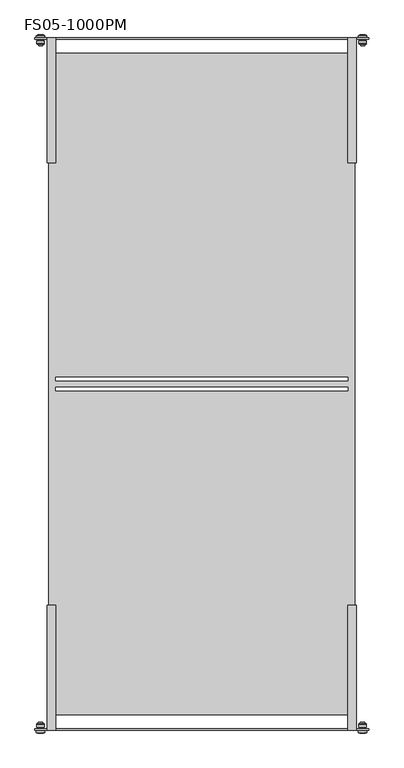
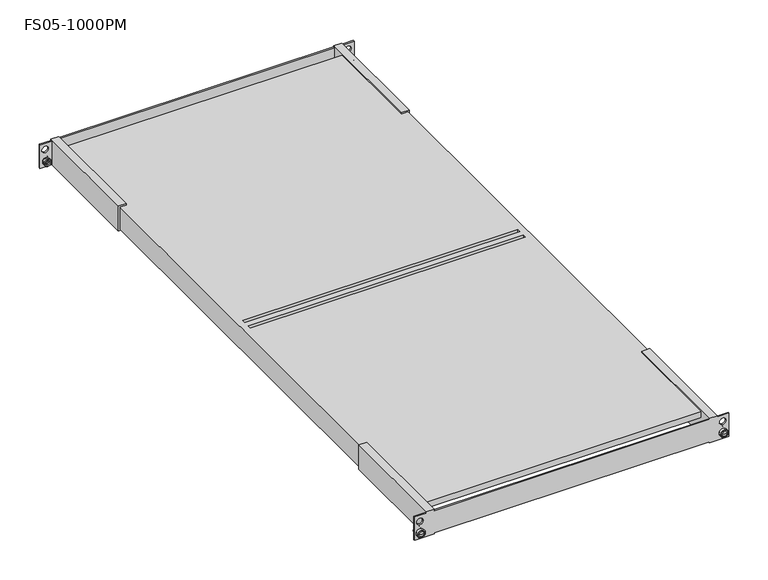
"""IFC4 building model written with IfcOpenShell, lengths in millimetres: proxy geometry, Полки стационарные усиленные : FS05-1000PM."""

from ifc_helpers import new_model, si_unit, point, frame, origin, place, context, project, spatial, polyline, circle_curve, ellipse_curve, trimmed, source, transform, mapped, element, save
from ifc_brep_helpers import plane_surface, cylinder_surface, revolved_surface, advanced_brep


def fs05_1000pm_f160d74f(model_context):
    return source(origin(), model_context, "Body", "AdvancedBrep", [
        advanced_brep(
        [(232.5819993, -504.3499926, 10.0), (236.0759317, -504.3499926, 10.0), (229.0880669, -504.3499926, 10.0), (229.5820007, -488.7499968, 10.0), (235.5819979, -488.7499968, 10.0), (232.5819993, -488.7499968, 10.0), (229.5820007, -490.7999942, 10.0), (235.5819979, -490.7999942, 10.0), (228.0787333, -490.7999942, 10.0), (237.0852653, -490.7999942, 10.0), (227.082003, -491.7967245, 10.0), (238.0819955, -491.7967245, 10.0), (227.082003, -495.8, 10.0), (238.0819955, -495.8, 10.0), (228.4086476, -498.0, 10.0), (236.755351, -498.0, 10.0), (228.4086476, -500.0, 10.0), (236.755351, -500.0, 10.0), (226.3319978, -500.0, 10.0), (238.8320008, -500.0, 10.0), (226.3319978, -503.5000006, 10.0), (238.8320008, -503.5000006, 10.0), (227.2038342, -503.5000006, 10.0), (237.9601644, -503.5000006, 10.0)],
        [
            (0, 1),
            (1, 2, circle_curve(frame((232.5819993, -504.3499926, 10.0), z_axis=(0.0, -1.0, 0.0), x_axis=(1.0, 0.0, 0.0)), 3.4939324)),
            (2, 0),
            (2, 1, circle_curve(frame((232.5819993, -504.3499926, 10.0), z_axis=(0.0, -1.0, 0.0), x_axis=(1.0, 0.0, 0.0)), 3.4939324)),
            (3, 4, circle_curve(frame((232.5819993, -488.7499968, 10.0), z_axis=(0.0, 1.0, 0.0), x_axis=(1.0, 0.0, 0.0)), 2.9999986)),
            (4, 5),
            (5, 3),
            (4, 3, circle_curve(frame((232.5819993, -488.7499968, 10.0), z_axis=(0.0, 1.0, 0.0), x_axis=(1.0, 0.0, 0.0)), 2.9999986)),
            (6, 7, circle_curve(frame((232.5819993, -490.7999942, 10.0), z_axis=(0.0, 1.0, 0.0), x_axis=(1.0, 0.0, 0.0)), 2.9999986)),
            (7, 4),
            (3, 6),
            (7, 6, circle_curve(frame((232.5819993, -490.7999942, 10.0), z_axis=(0.0, 1.0, 0.0), x_axis=(1.0, 0.0, 0.0)), 2.9999986)),
            (8, 9, circle_curve(frame((232.5819993, -490.7999942, 10.0), z_axis=(0.0, 1.0, 0.0), x_axis=(1.0, 0.0, 0.0)), 4.503266)),
            (9, 7),
            (6, 8),
            (9, 8, circle_curve(frame((232.5819993, -490.7999942, 10.0), z_axis=(0.0, 1.0, 0.0), x_axis=(1.0, 0.0, 0.0)), 4.503266)),
            (10, 11, circle_curve(frame((232.5819993, -491.7967245, 10.0), z_axis=(0.0, 1.0, 0.0), x_axis=(1.0, 0.0, 0.0)), 5.4999962)),
            (11, 9, circle_curve(frame((237.0852653, -491.7967245, 10.0), z_axis=(0.0, 0.0, 1.0), x_axis=(-1.0, 0.0, 0.0)), 0.9967303)),
            (8, 10, circle_curve(frame((228.0787333, -491.7967245, 10.0), z_axis=(0.0, 0.0, 1.0), x_axis=(1.0, 0.0, 0.0)), 0.9967303)),
            (11, 10, circle_curve(frame((232.5819993, -491.7967245, 10.0), z_axis=(0.0, 1.0, 0.0), x_axis=(1.0, 0.0, 0.0)), 5.4999962)),
            (12, 13, circle_curve(frame((232.5819993, -495.8, 10.0), z_axis=(0.0, 1.0, 0.0), x_axis=(1.0, 0.0, 0.0)), 5.4999962)),
            (13, 11),
            (10, 12),
            (13, 12, circle_curve(frame((232.5819993, -495.8, 10.0), z_axis=(0.0, 1.0, 0.0), x_axis=(1.0, 0.0, 0.0)), 5.4999962)),
            (14, 15, circle_curve(frame((232.5819993, -498.0, 10.0), z_axis=(0.0, 1.0, 0.0), x_axis=(1.0, 0.0, 0.0)), 4.1733517)),
            (15, 13, circle_curve(frame((238.0820009, -497.3, 10.0), z_axis=(0.0, 0.0, -1.0), x_axis=(-1.0, 0.0, 0.0)), 1.5)),
            (12, 14, circle_curve(frame((227.0819977, -497.3, 10.0), z_axis=(0.0, 0.0, -1.0), x_axis=(1.0, 0.0, 0.0)), 1.5)),
            (15, 14, circle_curve(frame((232.5819993, -498.0, 10.0), z_axis=(0.0, 1.0, 0.0), x_axis=(1.0, 0.0, 0.0)), 4.1733517)),
            (16, 17, circle_curve(frame((232.5819993, -500.0, 10.0), z_axis=(0.0, 1.0, 0.0), x_axis=(1.0, 0.0, 0.0)), 4.1733517)),
            (17, 15),
            (14, 16),
            (17, 16, circle_curve(frame((232.5819993, -500.0, 10.0), z_axis=(0.0, 1.0, 0.0), x_axis=(1.0, 0.0, 0.0)), 4.1733517)),
            (18, 19, circle_curve(frame((232.5819993, -500.0, 10.0), z_axis=(0.0, 1.0, 0.0), x_axis=(1.0, 0.0, 0.0)), 6.2500015)),
            (19, 17),
            (16, 18),
            (19, 18, circle_curve(frame((232.5819993, -500.0, 10.0), z_axis=(0.0, 1.0, 0.0), x_axis=(1.0, 0.0, 0.0)), 6.2500015)),
            (20, 21, circle_curve(frame((232.5819993, -503.5000006, 10.0), z_axis=(0.0, 1.0, 0.0), x_axis=(1.0, 0.0, 0.0)), 6.2500015)),
            (21, 19),
            (18, 20),
            (21, 20, circle_curve(frame((232.5819993, -503.5000006, 10.0), z_axis=(0.0, 1.0, 0.0), x_axis=(1.0, 0.0, 0.0)), 6.2500015)),
            (22, 23, circle_curve(frame((232.5819993, -503.5000006, 10.0), z_axis=(0.0, 1.0, 0.0), x_axis=(1.0, 0.0, 0.0)), 5.3781651)),
            (23, 21),
            (20, 22),
            (23, 22, circle_curve(frame((232.5819993, -503.5000006, 10.0), z_axis=(0.0, 1.0, 0.0), x_axis=(1.0, 0.0, 0.0)), 5.3781651)),
            (1, 23, circle_curve(frame((236.0820009, -501.85, 10.0), z_axis=(0.0, 0.0, 1.0), x_axis=(-1.0, 0.0, 0.0)), 2.5)),
            (22, 2, circle_curve(frame((229.0819977, -501.85, 10.0), z_axis=(0.0, 0.0, 1.0), x_axis=(1.0, 0.0, 0.0)), 2.5)),
        ],
        [
            plane_surface(frame((232.5819993, -504.3499926, 10.0), z_axis=(0.0, -1.0, 0.0), x_axis=(1.0, 0.0, 0.0))),
            plane_surface(frame((232.5819993, -488.7499968, 10.0), z_axis=(0.0, 1.0, 0.0), x_axis=(1.0, 0.0, 0.0))),
            cylinder_surface(frame((232.5819993, 2109.0581012, 10.0), z_axis=(0.0, -1.0, 0.0), x_axis=(1.0, 0.0, 0.0)), 2.9999986),
            plane_surface(frame((232.5819993, -490.7999942, 10.0), z_axis=(0.0, 1.0, 0.0), x_axis=(1.0, 0.0, 0.0))),
            revolved_surface(trimmed(ellipse_curve(frame((237.0852653, -491.7967245, 10.0), z_axis=(0.0, 0.0, -1.0), x_axis=(-1.0, 0.0, 0.0)), 0.9967303, 0.9967303), [point((237.0852653, -490.7999942, 10.0))], [point((238.0819955, -491.7967245, 10.0))], True, "CARTESIAN"), (232.5819993, 2109.0581012, 10.0), (0.0, -1.0, 0.0)),
            cylinder_surface(frame((232.5819993, 2109.0581012, 10.0), z_axis=(0.0, -1.0, 0.0), x_axis=(1.0, 0.0, 0.0)), 5.4999962),
            revolved_surface(trimmed(ellipse_curve(frame((238.0820009, -497.3, 10.0), z_axis=(0.0, 0.0, 1.0), x_axis=(-1.0, 0.0, 0.0)), 1.5, 1.5), [point((238.0819955, -495.8, 10.0))], [point((236.755351, -498.0, 10.0))], True, "CARTESIAN"), (232.5819993, 2109.0581012, 10.0), (0.0, -1.0, 0.0)),
            cylinder_surface(frame((232.5819993, 2109.0581012, 10.0), z_axis=(0.0, -1.0, 0.0), x_axis=(1.0, 0.0, 0.0)), 4.1733517),
            plane_surface(frame((232.5819993, -500.0, 10.0), z_axis=(0.0, 1.0, 0.0), x_axis=(1.0, 0.0, 0.0))),
            cylinder_surface(frame((232.5819993, 2109.0581012, 10.0), z_axis=(0.0, -1.0, 0.0), x_axis=(1.0, 0.0, 0.0)), 6.2500015),
            plane_surface(frame((232.5819993, -503.5000006, 10.0), z_axis=(0.0, -1.0, 0.0), x_axis=(1.0, 0.0, 0.0))),
            revolved_surface(trimmed(ellipse_curve(frame((236.0820009, -501.85, 10.0), z_axis=(0.0, 0.0, -1.0), x_axis=(-1.0, 0.0, 0.0)), 2.5, 2.5), [point((237.9601644, -503.5000006, 10.0))], [point((236.0759317, -504.3499926, 10.0))], True, "CARTESIAN"), (232.5819993, 2109.0581012, 10.0), (0.0, -1.0, 0.0)),
        ],
        [
            (0, [[1, 2, 3]]),
            (0, [[-3, 4, -1]]),
            (1, [[5, 6, 7]]),
            (1, [[8, -7, -6]]),
            (2, [[9, 10, -5, 11]]),
            (2, [[12, -11, -8, -10]]),
            (3, [[13, 14, -9, 15]]),
            (3, [[16, -15, -12, -14]]),
            (4, [[17, 18, -13, 19]]),
            (4, [[20, -19, -16, -18]]),
            (5, [[21, 22, -17, 23]]),
            (5, [[24, -23, -20, -22]]),
            (6, [[25, 26, -21, 27]]),
            (6, [[28, -27, -24, -26]]),
            (7, [[29, 30, -25, 31]]),
            (7, [[32, -31, -28, -30]]),
            (8, [[33, 34, -29, 35]]),
            (8, [[36, -35, -32, -34]]),
            (9, [[37, 38, -33, 39]]),
            (9, [[40, -39, -36, -38]]),
            (10, [[41, 42, -37, 43]]),
            (10, [[44, -43, -40, -42]]),
            (11, [[-2, 45, -41, 46]]),
            (11, [[-4, -46, -44, -45]]),
        ],
    ),
        advanced_brep(
        [(-233.3319993, -504.3499926, 10.0), (-229.8380669, -504.3499926, 10.0), (-236.8259317, -504.3499926, 10.0), (-230.3320007, -488.7499968, 10.0), (-233.3319993, -488.7499968, 10.0), (-236.3319979, -488.7499968, 10.0), (-230.3320007, -490.7999942, 10.0), (-236.3319979, -490.7999942, 10.0), (-228.8287333, -490.7999942, 10.0), (-237.8352653, -490.7999942, 10.0), (-227.832003, -491.7967245, 10.0), (-238.8319955, -491.7967245, 10.0), (-227.832003, -495.8, 10.0), (-238.8319955, -495.8, 10.0), (-229.1586476, -498.0, 10.0), (-237.505351, -498.0, 10.0), (-229.1586476, -500.0, 10.0), (-237.505351, -500.0, 10.0), (-227.0819978, -500.0, 10.0), (-239.5820008, -500.0, 10.0), (-227.0819978, -503.5000006, 10.0), (-239.5820008, -503.5000006, 10.0), (-227.9538342, -503.5000006, 10.0), (-238.7101644, -503.5000006, 10.0)],
        [
            (0, 1),
            (1, 2, circle_curve(frame((-233.3319993, -504.3499926, 10.0), z_axis=(0.0, -1.0, 0.0), x_axis=(-1.0, 0.0, 0.0)), 3.4939324)),
            (2, 0),
            (2, 1, circle_curve(frame((-233.3319993, -504.3499926, 10.0), z_axis=(0.0, -1.0, 0.0), x_axis=(-1.0, 0.0, 0.0)), 3.4939324)),
            (3, 4),
            (4, 5),
            (5, 3, circle_curve(frame((-233.3319993, -488.7499968, 10.0), z_axis=(0.0, 1.0, 0.0), x_axis=(-1.0, 0.0, 0.0)), 2.9999986)),
            (3, 5, circle_curve(frame((-233.3319993, -488.7499968, 10.0), z_axis=(0.0, 1.0, 0.0), x_axis=(-1.0, 0.0, 0.0)), 2.9999986)),
            (6, 3),
            (5, 7),
            (7, 6, circle_curve(frame((-233.3319993, -490.7999942, 10.0), z_axis=(0.0, 1.0, 0.0), x_axis=(-1.0, 0.0, 0.0)), 2.9999986)),
            (6, 7, circle_curve(frame((-233.3319993, -490.7999942, 10.0), z_axis=(0.0, 1.0, 0.0), x_axis=(-1.0, 0.0, 0.0)), 2.9999986)),
            (8, 6),
            (7, 9),
            (9, 8, circle_curve(frame((-233.3319993, -490.7999942, 10.0), z_axis=(0.0, 1.0, 0.0), x_axis=(-1.0, 0.0, 0.0)), 4.503266)),
            (8, 9, circle_curve(frame((-233.3319993, -490.7999942, 10.0), z_axis=(0.0, 1.0, 0.0), x_axis=(-1.0, 0.0, 0.0)), 4.503266)),
            (10, 8, circle_curve(frame((-228.8287333, -491.7967245, 10.0), z_axis=(0.0, 0.0, 1.0), x_axis=(-1.0, 0.0, 0.0)), 0.9967303)),
            (9, 11, circle_curve(frame((-237.8352653, -491.7967245, 10.0), z_axis=(0.0, 0.0, 1.0), x_axis=(1.0, 0.0, 0.0)), 0.9967303)),
            (11, 10, circle_curve(frame((-233.3319993, -491.7967245, 10.0), z_axis=(0.0, 1.0, 0.0), x_axis=(-1.0, 0.0, 0.0)), 5.4999962)),
            (10, 11, circle_curve(frame((-233.3319993, -491.7967245, 10.0), z_axis=(0.0, 1.0, 0.0), x_axis=(-1.0, 0.0, 0.0)), 5.4999962)),
            (12, 10),
            (11, 13),
            (13, 12, circle_curve(frame((-233.3319993, -495.8, 10.0), z_axis=(0.0, 1.0, 0.0), x_axis=(-1.0, 0.0, 0.0)), 5.4999962)),
            (12, 13, circle_curve(frame((-233.3319993, -495.8, 10.0), z_axis=(0.0, 1.0, 0.0), x_axis=(-1.0, 0.0, 0.0)), 5.4999962)),
            (14, 12, circle_curve(frame((-227.8319977, -497.3, 10.0), z_axis=(0.0, 0.0, -1.0), x_axis=(-1.0, 0.0, 0.0)), 1.5)),
            (13, 15, circle_curve(frame((-238.8320009, -497.3, 10.0), z_axis=(0.0, 0.0, -1.0), x_axis=(1.0, 0.0, 0.0)), 1.5)),
            (15, 14, circle_curve(frame((-233.3319993, -498.0, 10.0), z_axis=(0.0, 1.0, 0.0), x_axis=(-1.0, 0.0, 0.0)), 4.1733517)),
            (14, 15, circle_curve(frame((-233.3319993, -498.0, 10.0), z_axis=(0.0, 1.0, 0.0), x_axis=(-1.0, 0.0, 0.0)), 4.1733517)),
            (16, 14),
            (15, 17),
            (17, 16, circle_curve(frame((-233.3319993, -500.0, 10.0), z_axis=(0.0, 1.0, 0.0), x_axis=(-1.0, 0.0, 0.0)), 4.1733517)),
            (16, 17, circle_curve(frame((-233.3319993, -500.0, 10.0), z_axis=(0.0, 1.0, 0.0), x_axis=(-1.0, 0.0, 0.0)), 4.1733517)),
            (18, 16),
            (17, 19),
            (19, 18, circle_curve(frame((-233.3319993, -500.0, 10.0), z_axis=(0.0, 1.0, 0.0), x_axis=(-1.0, 0.0, 0.0)), 6.2500015)),
            (18, 19, circle_curve(frame((-233.3319993, -500.0, 10.0), z_axis=(0.0, 1.0, 0.0), x_axis=(-1.0, 0.0, 0.0)), 6.2500015)),
            (20, 18),
            (19, 21),
            (21, 20, circle_curve(frame((-233.3319993, -503.5000006, 10.0), z_axis=(0.0, 1.0, 0.0), x_axis=(-1.0, 0.0, 0.0)), 6.2500015)),
            (20, 21, circle_curve(frame((-233.3319993, -503.5000006, 10.0), z_axis=(0.0, 1.0, 0.0), x_axis=(-1.0, 0.0, 0.0)), 6.2500015)),
            (22, 20),
            (21, 23),
            (23, 22, circle_curve(frame((-233.3319993, -503.5000006, 10.0), z_axis=(0.0, 1.0, 0.0), x_axis=(-1.0, 0.0, 0.0)), 5.3781651)),
            (22, 23, circle_curve(frame((-233.3319993, -503.5000006, 10.0), z_axis=(0.0, 1.0, 0.0), x_axis=(-1.0, 0.0, 0.0)), 5.3781651)),
            (1, 22, circle_curve(frame((-229.8319977, -501.85, 10.0), z_axis=(0.0, 0.0, 1.0), x_axis=(-1.0, 0.0, 0.0)), 2.5)),
            (23, 2, circle_curve(frame((-236.8320009, -501.85, 10.0), z_axis=(0.0, 0.0, 1.0), x_axis=(1.0, 0.0, 0.0)), 2.5)),
        ],
        [
            plane_surface(frame((-233.3319993, -504.3499926, 10.0), z_axis=(0.0, -1.0, 0.0), x_axis=(-1.0, 0.0, 0.0))),
            plane_surface(frame((-233.3319993, -488.7499968, 10.0), z_axis=(0.0, 1.0, 0.0), x_axis=(-1.0, 0.0, 0.0))),
            cylinder_surface(frame((-233.3319993, 2109.0581012, 10.0), z_axis=(0.0, -1.0, 0.0), x_axis=(-1.0, 0.0, 0.0)), 2.9999986),
            plane_surface(frame((-233.3319993, -490.7999942, 10.0), z_axis=(0.0, 1.0, 0.0), x_axis=(-1.0, 0.0, 0.0))),
            revolved_surface(trimmed(ellipse_curve(frame((-237.8352653, -491.7967245, 10.0), z_axis=(0.0, 0.0, 1.0), x_axis=(1.0, 0.0, 0.0)), 0.9967303, 0.9967303), [point((-237.8352653, -490.7999942, 10.0))], [point((-238.8319955, -491.7967245, 10.0))], True, "CARTESIAN"), (-233.3319993, 2109.0581012, 10.0), (0.0, -1.0, 0.0)),
            cylinder_surface(frame((-233.3319993, 2109.0581012, 10.0), z_axis=(0.0, -1.0, 0.0), x_axis=(-1.0, 0.0, 0.0)), 5.4999962),
            revolved_surface(trimmed(ellipse_curve(frame((-238.8320009, -497.3, 10.0), z_axis=(0.0, 0.0, -1.0), x_axis=(1.0, 0.0, 0.0)), 1.5, 1.5), [point((-238.8319955, -495.8, 10.0))], [point((-237.505351, -498.0, 10.0))], True, "CARTESIAN"), (-233.3319993, 2109.0581012, 10.0), (0.0, -1.0, 0.0)),
            cylinder_surface(frame((-233.3319993, 2109.0581012, 10.0), z_axis=(0.0, -1.0, 0.0), x_axis=(-1.0, 0.0, 0.0)), 4.1733517),
            plane_surface(frame((-233.3319993, -500.0, 10.0), z_axis=(0.0, 1.0, 0.0), x_axis=(-1.0, 0.0, 0.0))),
            cylinder_surface(frame((-233.3319993, 2109.0581012, 10.0), z_axis=(0.0, -1.0, 0.0), x_axis=(-1.0, 0.0, 0.0)), 6.2500015),
            plane_surface(frame((-233.3319993, -503.5000006, 10.0), z_axis=(0.0, -1.0, 0.0), x_axis=(-1.0, 0.0, 0.0))),
            revolved_surface(trimmed(ellipse_curve(frame((-236.8320009, -501.85, 10.0), z_axis=(0.0, 0.0, 1.0), x_axis=(1.0, 0.0, 0.0)), 2.5, 2.5), [point((-238.7101644, -503.5000006, 10.0))], [point((-236.8259317, -504.3499926, 10.0))], True, "CARTESIAN"), (-233.3319993, 2109.0581012, 10.0), (0.0, -1.0, 0.0)),
        ],
        [
            (0, [[1, 2, 3]]),
            (0, [[-3, 4, -1]]),
            (1, [[5, 6, 7]]),
            (1, [[-6, -5, 8]]),
            (2, [[9, -7, 10, 11]]),
            (2, [[-10, -8, -9, 12]]),
            (3, [[13, -11, 14, 15]]),
            (3, [[-14, -12, -13, 16]]),
            (4, [[17, -15, 18, 19]]),
            (4, [[-18, -16, -17, 20]]),
            (5, [[21, -19, 22, 23]]),
            (5, [[-22, -20, -21, 24]]),
            (6, [[25, -23, 26, 27]]),
            (6, [[-26, -24, -25, 28]]),
            (7, [[29, -27, 30, 31]]),
            (7, [[-30, -28, -29, 32]]),
            (8, [[33, -31, 34, 35]]),
            (8, [[-34, -32, -33, 36]]),
            (9, [[37, -35, 38, 39]]),
            (9, [[-38, -36, -37, 40]]),
            (10, [[41, -39, 42, 43]]),
            (10, [[-42, -40, -41, 44]]),
            (11, [[45, -43, 46, -2]]),
            (11, [[-46, -44, -45, -4]]),
        ],
    ),
        advanced_brep(
        [(232.7069993, 504.3499926, 10.0), (229.2130669, 504.3499926, 10.0), (236.2009317, 504.3499926, 10.0), (229.7070007, 488.7499968, 10.0), (232.7069993, 488.7499968, 10.0), (235.7069979, 488.7499968, 10.0), (229.7070007, 490.7999942, 10.0), (235.7069979, 490.7999942, 10.0), (228.2037333, 490.7999942, 10.0), (237.2102653, 490.7999942, 10.0), (227.207003, 491.7967245, 10.0), (238.2069955, 491.7967245, 10.0), (227.207003, 495.8, 10.0), (238.2069955, 495.8, 10.0), (228.5336476, 498.0, 10.0), (236.880351, 498.0, 10.0), (228.5336476, 500.0, 10.0), (236.880351, 500.0, 10.0), (226.4569978, 500.0, 10.0), (238.9570008, 500.0, 10.0), (226.4569978, 503.5000006, 10.0), (238.9570008, 503.5000006, 10.0), (227.3288342, 503.5000006, 10.0), (238.0851644, 503.5000006, 10.0)],
        [
            (0, 1),
            (1, 2, circle_curve(frame((232.7069993, 504.3499926, 10.0), z_axis=(0.0, 1.0, 0.0), x_axis=(1.0, 0.0, 0.0)), 3.4939324)),
            (2, 0),
            (2, 1, circle_curve(frame((232.7069993, 504.3499926, 10.0), z_axis=(0.0, 1.0, 0.0), x_axis=(1.0, 0.0, 0.0)), 3.4939324)),
            (3, 4),
            (4, 5),
            (5, 3, circle_curve(frame((232.7069993, 488.7499968, 10.0), z_axis=(0.0, -1.0, 0.0), x_axis=(1.0, 0.0, 0.0)), 2.9999986)),
            (3, 5, circle_curve(frame((232.7069993, 488.7499968, 10.0), z_axis=(0.0, -1.0, 0.0), x_axis=(1.0, 0.0, 0.0)), 2.9999986)),
            (6, 3),
            (5, 7),
            (7, 6, circle_curve(frame((232.7069993, 490.7999942, 10.0), z_axis=(0.0, -1.0, 0.0), x_axis=(1.0, 0.0, 0.0)), 2.9999986)),
            (6, 7, circle_curve(frame((232.7069993, 490.7999942, 10.0), z_axis=(0.0, -1.0, 0.0), x_axis=(1.0, 0.0, 0.0)), 2.9999986)),
            (8, 6),
            (7, 9),
            (9, 8, circle_curve(frame((232.7069993, 490.7999942, 10.0), z_axis=(0.0, -1.0, 0.0), x_axis=(1.0, 0.0, 0.0)), 4.503266)),
            (8, 9, circle_curve(frame((232.7069993, 490.7999942, 10.0), z_axis=(0.0, -1.0, 0.0), x_axis=(1.0, 0.0, 0.0)), 4.503266)),
            (10, 8, circle_curve(frame((228.2037333, 491.7967245, 10.0), z_axis=(0.0, 0.0, 1.0), x_axis=(1.0, 0.0, 0.0)), 0.9967303)),
            (9, 11, circle_curve(frame((237.2102653, 491.7967245, 10.0), z_axis=(0.0, 0.0, 1.0), x_axis=(-1.0, 0.0, 0.0)), 0.9967303)),
            (11, 10, circle_curve(frame((232.7069993, 491.7967245, 10.0), z_axis=(0.0, -1.0, 0.0), x_axis=(1.0, 0.0, 0.0)), 5.4999962)),
            (10, 11, circle_curve(frame((232.7069993, 491.7967245, 10.0), z_axis=(0.0, -1.0, 0.0), x_axis=(1.0, 0.0, 0.0)), 5.4999962)),
            (12, 10),
            (11, 13),
            (13, 12, circle_curve(frame((232.7069993, 495.8, 10.0), z_axis=(0.0, -1.0, 0.0), x_axis=(1.0, 0.0, 0.0)), 5.4999962)),
            (12, 13, circle_curve(frame((232.7069993, 495.8, 10.0), z_axis=(0.0, -1.0, 0.0), x_axis=(1.0, 0.0, 0.0)), 5.4999962)),
            (14, 12, circle_curve(frame((227.2069977, 497.3, 10.0), z_axis=(0.0, 0.0, -1.0), x_axis=(1.0, 0.0, 0.0)), 1.5)),
            (13, 15, circle_curve(frame((238.2070009, 497.3, 10.0), z_axis=(0.0, 0.0, -1.0), x_axis=(-1.0, 0.0, 0.0)), 1.5)),
            (15, 14, circle_curve(frame((232.7069993, 498.0, 10.0), z_axis=(0.0, -1.0, 0.0), x_axis=(1.0, 0.0, 0.0)), 4.1733517)),
            (14, 15, circle_curve(frame((232.7069993, 498.0, 10.0), z_axis=(0.0, -1.0, 0.0), x_axis=(1.0, 0.0, 0.0)), 4.1733517)),
            (16, 14),
            (15, 17),
            (17, 16, circle_curve(frame((232.7069993, 500.0, 10.0), z_axis=(0.0, -1.0, 0.0), x_axis=(1.0, 0.0, 0.0)), 4.1733517)),
            (16, 17, circle_curve(frame((232.7069993, 500.0, 10.0), z_axis=(0.0, -1.0, 0.0), x_axis=(1.0, 0.0, 0.0)), 4.1733517)),
            (18, 16),
            (17, 19),
            (19, 18, circle_curve(frame((232.7069993, 500.0, 10.0), z_axis=(0.0, -1.0, 0.0), x_axis=(1.0, 0.0, 0.0)), 6.2500015)),
            (18, 19, circle_curve(frame((232.7069993, 500.0, 10.0), z_axis=(0.0, -1.0, 0.0), x_axis=(1.0, 0.0, 0.0)), 6.2500015)),
            (20, 18),
            (19, 21),
            (21, 20, circle_curve(frame((232.7069993, 503.5000006, 10.0), z_axis=(0.0, -1.0, 0.0), x_axis=(1.0, 0.0, 0.0)), 6.2500015)),
            (20, 21, circle_curve(frame((232.7069993, 503.5000006, 10.0), z_axis=(0.0, -1.0, 0.0), x_axis=(1.0, 0.0, 0.0)), 6.2500015)),
            (22, 20),
            (21, 23),
            (23, 22, circle_curve(frame((232.7069993, 503.5000006, 10.0), z_axis=(0.0, -1.0, 0.0), x_axis=(1.0, 0.0, 0.0)), 5.3781651)),
            (22, 23, circle_curve(frame((232.7069993, 503.5000006, 10.0), z_axis=(0.0, -1.0, 0.0), x_axis=(1.0, 0.0, 0.0)), 5.3781651)),
            (1, 22, circle_curve(frame((229.2069977, 501.85, 10.0), z_axis=(0.0, 0.0, 1.0), x_axis=(1.0, 0.0, 0.0)), 2.5)),
            (23, 2, circle_curve(frame((236.2070009, 501.85, 10.0), z_axis=(0.0, 0.0, 1.0), x_axis=(-1.0, 0.0, 0.0)), 2.5)),
        ],
        [
            plane_surface(frame((232.7069993, 504.3499926, 10.0), z_axis=(0.0, 1.0, 0.0), x_axis=(1.0, 0.0, 0.0))),
            plane_surface(frame((232.7069993, 488.7499968, 10.0), z_axis=(0.0, -1.0, 0.0), x_axis=(1.0, 0.0, 0.0))),
            cylinder_surface(frame((232.7069993, -2109.0581012, 10.0), z_axis=(0.0, 1.0, 0.0), x_axis=(1.0, 0.0, 0.0)), 2.9999986),
            plane_surface(frame((232.7069993, 490.7999942, 10.0), z_axis=(0.0, -1.0, 0.0), x_axis=(1.0, 0.0, 0.0))),
            revolved_surface(trimmed(ellipse_curve(frame((237.2102653, 491.7967245, 10.0), z_axis=(0.0, 0.0, 1.0), x_axis=(-1.0, 0.0, 0.0)), 0.9967303, 0.9967303), [point((237.2102653, 490.7999942, 10.0))], [point((238.2069955, 491.7967245, 10.0))], True, "CARTESIAN"), (232.7069993, -2109.0581012, 10.0), (0.0, 1.0, 0.0)),
            cylinder_surface(frame((232.7069993, -2109.0581012, 10.0), z_axis=(0.0, 1.0, 0.0), x_axis=(1.0, 0.0, 0.0)), 5.4999962),
            revolved_surface(trimmed(ellipse_curve(frame((238.2070009, 497.3, 10.0), z_axis=(0.0, 0.0, -1.0), x_axis=(-1.0, 0.0, 0.0)), 1.5, 1.5), [point((238.2069955, 495.8, 10.0))], [point((236.880351, 498.0, 10.0))], True, "CARTESIAN"), (232.7069993, -2109.0581012, 10.0), (0.0, 1.0, 0.0)),
            cylinder_surface(frame((232.7069993, -2109.0581012, 10.0), z_axis=(0.0, 1.0, 0.0), x_axis=(1.0, 0.0, 0.0)), 4.1733517),
            plane_surface(frame((232.7069993, 500.0, 10.0), z_axis=(0.0, -1.0, 0.0), x_axis=(1.0, 0.0, 0.0))),
            cylinder_surface(frame((232.7069993, -2109.0581012, 10.0), z_axis=(0.0, 1.0, 0.0), x_axis=(1.0, 0.0, 0.0)), 6.2500015),
            plane_surface(frame((232.7069993, 503.5000006, 10.0), z_axis=(0.0, 1.0, 0.0), x_axis=(1.0, 0.0, 0.0))),
            revolved_surface(trimmed(ellipse_curve(frame((236.2070009, 501.85, 10.0), z_axis=(0.0, 0.0, 1.0), x_axis=(-1.0, 0.0, 0.0)), 2.5, 2.5), [point((238.0851644, 503.5000006, 10.0))], [point((236.2009317, 504.3499926, 10.0))], True, "CARTESIAN"), (232.7069993, -2109.0581012, 10.0), (0.0, 1.0, 0.0)),
        ],
        [
            (0, [[1, 2, 3]]),
            (0, [[-3, 4, -1]]),
            (1, [[5, 6, 7]]),
            (1, [[-6, -5, 8]]),
            (2, [[9, -7, 10, 11]]),
            (2, [[-10, -8, -9, 12]]),
            (3, [[13, -11, 14, 15]]),
            (3, [[-14, -12, -13, 16]]),
            (4, [[17, -15, 18, 19]]),
            (4, [[-18, -16, -17, 20]]),
            (5, [[21, -19, 22, 23]]),
            (5, [[-22, -20, -21, 24]]),
            (6, [[25, -23, 26, 27]]),
            (6, [[-26, -24, -25, 28]]),
            (7, [[29, -27, 30, 31]]),
            (7, [[-30, -28, -29, 32]]),
            (8, [[33, -31, 34, 35]]),
            (8, [[-34, -32, -33, 36]]),
            (9, [[37, -35, 38, 39]]),
            (9, [[-38, -36, -37, 40]]),
            (10, [[41, -39, 42, 43]]),
            (10, [[-42, -40, -41, 44]]),
            (11, [[45, -43, 46, -2]]),
            (11, [[-46, -44, -45, -4]]),
        ],
    ),
        advanced_brep(
        [(-233.2069993, 504.3499926, 10.0), (-236.7009317, 504.3499926, 10.0), (-229.7130669, 504.3499926, 10.0), (-230.2070007, 488.7499968, 10.0), (-236.2069979, 488.7499968, 10.0), (-233.2069993, 488.7499968, 10.0), (-230.2070007, 490.7999942, 10.0), (-236.2069979, 490.7999942, 10.0), (-228.7037333, 490.7999942, 10.0), (-237.7102653, 490.7999942, 10.0), (-227.707003, 491.7967245, 10.0), (-238.7069955, 491.7967245, 10.0), (-227.707003, 495.8, 10.0), (-238.7069955, 495.8, 10.0), (-229.0336476, 498.0, 10.0), (-237.380351, 498.0, 10.0), (-229.0336476, 500.0, 10.0), (-237.380351, 500.0, 10.0), (-226.9569978, 500.0, 10.0), (-239.4570008, 500.0, 10.0), (-226.9569978, 503.5000006, 10.0), (-239.4570008, 503.5000006, 10.0), (-227.8288342, 503.5000006, 10.0), (-238.5851644, 503.5000006, 10.0)],
        [
            (0, 1),
            (1, 2, circle_curve(frame((-233.2069993, 504.3499926, 10.0), z_axis=(0.0, 1.0, 0.0), x_axis=(-1.0, 0.0, 0.0)), 3.4939324)),
            (2, 0),
            (2, 1, circle_curve(frame((-233.2069993, 504.3499926, 10.0), z_axis=(0.0, 1.0, 0.0), x_axis=(-1.0, 0.0, 0.0)), 3.4939324)),
            (3, 4, circle_curve(frame((-233.2069993, 488.7499968, 10.0), z_axis=(0.0, -1.0, 0.0), x_axis=(-1.0, 0.0, 0.0)), 2.9999986)),
            (4, 5),
            (5, 3),
            (4, 3, circle_curve(frame((-233.2069993, 488.7499968, 10.0), z_axis=(0.0, -1.0, 0.0), x_axis=(-1.0, 0.0, 0.0)), 2.9999986)),
            (6, 7, circle_curve(frame((-233.2069993, 490.7999942, 10.0), z_axis=(0.0, -1.0, 0.0), x_axis=(-1.0, 0.0, 0.0)), 2.9999986)),
            (7, 4),
            (3, 6),
            (7, 6, circle_curve(frame((-233.2069993, 490.7999942, 10.0), z_axis=(0.0, -1.0, 0.0), x_axis=(-1.0, 0.0, 0.0)), 2.9999986)),
            (8, 9, circle_curve(frame((-233.2069993, 490.7999942, 10.0), z_axis=(0.0, -1.0, 0.0), x_axis=(-1.0, 0.0, 0.0)), 4.503266)),
            (9, 7),
            (6, 8),
            (9, 8, circle_curve(frame((-233.2069993, 490.7999942, 10.0), z_axis=(0.0, -1.0, 0.0), x_axis=(-1.0, 0.0, 0.0)), 4.503266)),
            (10, 11, circle_curve(frame((-233.2069993, 491.7967245, 10.0), z_axis=(0.0, -1.0, 0.0), x_axis=(-1.0, 0.0, 0.0)), 5.4999962)),
            (11, 9, circle_curve(frame((-237.7102653, 491.7967245, 10.0), z_axis=(0.0, 0.0, 1.0), x_axis=(1.0, 0.0, 0.0)), 0.9967303)),
            (8, 10, circle_curve(frame((-228.7037333, 491.7967245, 10.0), z_axis=(0.0, 0.0, 1.0), x_axis=(-1.0, 0.0, 0.0)), 0.9967303)),
            (11, 10, circle_curve(frame((-233.2069993, 491.7967245, 10.0), z_axis=(0.0, -1.0, 0.0), x_axis=(-1.0, 0.0, 0.0)), 5.4999962)),
            (12, 13, circle_curve(frame((-233.2069993, 495.8, 10.0), z_axis=(0.0, -1.0, 0.0), x_axis=(-1.0, 0.0, 0.0)), 5.4999962)),
            (13, 11),
            (10, 12),
            (13, 12, circle_curve(frame((-233.2069993, 495.8, 10.0), z_axis=(0.0, -1.0, 0.0), x_axis=(-1.0, 0.0, 0.0)), 5.4999962)),
            (14, 15, circle_curve(frame((-233.2069993, 498.0, 10.0), z_axis=(0.0, -1.0, 0.0), x_axis=(-1.0, 0.0, 0.0)), 4.1733517)),
            (15, 13, circle_curve(frame((-238.7070009, 497.3, 10.0), z_axis=(0.0, 0.0, -1.0), x_axis=(1.0, 0.0, 0.0)), 1.5)),
            (12, 14, circle_curve(frame((-227.7069977, 497.3, 10.0), z_axis=(0.0, 0.0, -1.0), x_axis=(-1.0, 0.0, 0.0)), 1.5)),
            (15, 14, circle_curve(frame((-233.2069993, 498.0, 10.0), z_axis=(0.0, -1.0, 0.0), x_axis=(-1.0, 0.0, 0.0)), 4.1733517)),
            (16, 17, circle_curve(frame((-233.2069993, 500.0, 10.0), z_axis=(0.0, -1.0, 0.0), x_axis=(-1.0, 0.0, 0.0)), 4.1733517)),
            (17, 15),
            (14, 16),
            (17, 16, circle_curve(frame((-233.2069993, 500.0, 10.0), z_axis=(0.0, -1.0, 0.0), x_axis=(-1.0, 0.0, 0.0)), 4.1733517)),
            (18, 19, circle_curve(frame((-233.2069993, 500.0, 10.0), z_axis=(0.0, -1.0, 0.0), x_axis=(-1.0, 0.0, 0.0)), 6.2500015)),
            (19, 17),
            (16, 18),
            (19, 18, circle_curve(frame((-233.2069993, 500.0, 10.0), z_axis=(0.0, -1.0, 0.0), x_axis=(-1.0, 0.0, 0.0)), 6.2500015)),
            (20, 21, circle_curve(frame((-233.2069993, 503.5000006, 10.0), z_axis=(0.0, -1.0, 0.0), x_axis=(-1.0, 0.0, 0.0)), 6.2500015)),
            (21, 19),
            (18, 20),
            (21, 20, circle_curve(frame((-233.2069993, 503.5000006, 10.0), z_axis=(0.0, -1.0, 0.0), x_axis=(-1.0, 0.0, 0.0)), 6.2500015)),
            (22, 23, circle_curve(frame((-233.2069993, 503.5000006, 10.0), z_axis=(0.0, -1.0, 0.0), x_axis=(-1.0, 0.0, 0.0)), 5.3781651)),
            (23, 21),
            (20, 22),
            (23, 22, circle_curve(frame((-233.2069993, 503.5000006, 10.0), z_axis=(0.0, -1.0, 0.0), x_axis=(-1.0, 0.0, 0.0)), 5.3781651)),
            (1, 23, circle_curve(frame((-236.7070009, 501.85, 10.0), z_axis=(0.0, 0.0, 1.0), x_axis=(1.0, 0.0, 0.0)), 2.5)),
            (22, 2, circle_curve(frame((-229.7069977, 501.85, 10.0), z_axis=(0.0, 0.0, 1.0), x_axis=(-1.0, 0.0, 0.0)), 2.5)),
        ],
        [
            plane_surface(frame((-233.2069993, 504.3499926, 10.0), z_axis=(0.0, 1.0, 0.0), x_axis=(-1.0, 0.0, 0.0))),
            plane_surface(frame((-233.2069993, 488.7499968, 10.0), z_axis=(0.0, -1.0, 0.0), x_axis=(-1.0, 0.0, 0.0))),
            cylinder_surface(frame((-233.2069993, -2109.0581012, 10.0), z_axis=(0.0, 1.0, 0.0), x_axis=(-1.0, 0.0, 0.0)), 2.9999986),
            plane_surface(frame((-233.2069993, 490.7999942, 10.0), z_axis=(0.0, -1.0, 0.0), x_axis=(-1.0, 0.0, 0.0))),
            revolved_surface(trimmed(ellipse_curve(frame((-237.7102653, 491.7967245, 10.0), z_axis=(0.0, 0.0, -1.0), x_axis=(1.0, 0.0, 0.0)), 0.9967303, 0.9967303), [point((-237.7102653, 490.7999942, 10.0))], [point((-238.7069955, 491.7967245, 10.0))], True, "CARTESIAN"), (-233.2069993, -2109.0581012, 10.0), (0.0, 1.0, 0.0)),
            cylinder_surface(frame((-233.2069993, -2109.0581012, 10.0), z_axis=(0.0, 1.0, 0.0), x_axis=(-1.0, 0.0, 0.0)), 5.4999962),
            revolved_surface(trimmed(ellipse_curve(frame((-238.7070009, 497.3, 10.0), z_axis=(0.0, 0.0, 1.0), x_axis=(1.0, 0.0, 0.0)), 1.5, 1.5), [point((-238.7069955, 495.8, 10.0))], [point((-237.380351, 498.0, 10.0))], True, "CARTESIAN"), (-233.2069993, -2109.0581012, 10.0), (0.0, 1.0, 0.0)),
            cylinder_surface(frame((-233.2069993, -2109.0581012, 10.0), z_axis=(0.0, 1.0, 0.0), x_axis=(-1.0, 0.0, 0.0)), 4.1733517),
            plane_surface(frame((-233.2069993, 500.0, 10.0), z_axis=(0.0, -1.0, 0.0), x_axis=(-1.0, 0.0, 0.0))),
            cylinder_surface(frame((-233.2069993, -2109.0581012, 10.0), z_axis=(0.0, 1.0, 0.0), x_axis=(-1.0, 0.0, 0.0)), 6.2500015),
            plane_surface(frame((-233.2069993, 503.5000006, 10.0), z_axis=(0.0, 1.0, 0.0), x_axis=(-1.0, 0.0, 0.0))),
            revolved_surface(trimmed(ellipse_curve(frame((-236.7070009, 501.85, 10.0), z_axis=(0.0, 0.0, -1.0), x_axis=(1.0, 0.0, 0.0)), 2.5, 2.5), [point((-238.5851644, 503.5000006, 10.0))], [point((-236.7009317, 504.3499926, 10.0))], True, "CARTESIAN"), (-233.2069993, -2109.0581012, 10.0), (0.0, 1.0, 0.0)),
        ],
        [
            (0, [[1, 2, 3]]),
            (0, [[-3, 4, -1]]),
            (1, [[5, 6, 7]]),
            (1, [[8, -7, -6]]),
            (2, [[9, 10, -5, 11]]),
            (2, [[12, -11, -8, -10]]),
            (3, [[13, 14, -9, 15]]),
            (3, [[16, -15, -12, -14]]),
            (4, [[17, 18, -13, 19]]),
            (4, [[20, -19, -16, -18]]),
            (5, [[21, 22, -17, 23]]),
            (5, [[24, -23, -20, -22]]),
            (6, [[25, 26, -21, 27]]),
            (6, [[28, -27, -24, -26]]),
            (7, [[29, 30, -25, 31]]),
            (7, [[32, -31, -28, -30]]),
            (8, [[33, 34, -29, 35]]),
            (8, [[36, -35, -32, -34]]),
            (9, [[37, 38, -33, 39]]),
            (9, [[40, -39, -36, -38]]),
            (10, [[41, 42, -37, 43]]),
            (10, [[44, -43, -40, -42]]),
            (11, [[-2, 45, -41, 46]]),
            (11, [[-4, -46, -44, -45]]),
        ],
    ),
        advanced_brep(
        [(-211.5, -500.0, 38.0), (-211.5, -500.0, 40.0), (-223.5, -500.0, 40.0), (-223.5, -500.0, 38.0), (-241.5, -500.0, 38.0), (-241.5, -500.0, 0.0), (-211.5, -500.0, 0.0), (-211.5, -500.0, 2.0), (211.5, -500.0, 2.0), (211.5, -500.0, 0.0), (241.5, -500.0, 0.0), (241.5, -500.0, 38.0), (223.5, -500.0, 38.0), (223.5, -500.0, 40.0), (211.5, -500.0, 40.0), (211.5, -500.0, 38.0), (-228.4375, -500.0, 28.0), (-238.4375, -500.0, 28.0), (237.1875, -500.0, 28.0), (227.1875, -500.0, 28.0), (-211.5, -320.0, 2.0), (-211.5, -320.0, 0.0), (-223.5, -320.0, 0.0), (-223.5, -320.0, 40.0), (-211.5, -320.0, 40.0), (-211.5, -320.0, 38.0), (-221.5, -320.0, 38.0), (-221.5, -320.0, 2.0), (211.5, -320.0, 38.0), (211.5, -320.0, 40.0), (223.5, -320.0, 40.0), (223.5, -320.0, 0.0), (211.5, -320.0, 0.0), (211.5, -320.0, 2.0), (221.5, -320.0, 2.0), (221.5, -320.0, 38.0), (-211.5, -498.0, 38.0), (-211.5, -498.0, 2.0), (-211.5, -5.0, 2.0), (-211.5, -5.0, 38.0), (-211.5, -10.0, 38.0), (-211.5, -10.0, 28.0), (-211.5, -478.0, 28.0), (-211.5, -478.0, 38.0), (-241.5, -498.0, 0.0), (-223.5, -498.0, 0.0), (223.5, -498.0, 0.0), (241.5, -498.0, 0.0), (-241.5, 498.0, 0.0), (-241.5, 500.0, 0.0), (-211.5, 500.0, 0.0), (-211.5, 320.0, 0.0), (-223.5, 320.0, 0.0), (-223.5, 498.0, 0.0), (241.5, 500.0, 0.0), (241.5, 498.0, 0.0), (223.5, 498.0, 0.0), (223.5, 320.0, 0.0), (211.5, 320.0, 0.0), (211.5, 500.0, 0.0), (211.5, -498.0, 2.0), (211.5, -498.0, 38.0), (211.5, -478.0, 38.0), (211.5, -478.0, 28.0), (211.5, -10.0, 28.0), (211.5, -10.0, 38.0), (211.5, -5.0, 38.0), (211.5, -5.0, 2.0), (-241.5, 498.0, 38.0), (-223.5, 498.0, 38.0), (-223.5, 500.0, 38.0), (-241.5, 500.0, 38.0), (-223.5, -498.0, 38.0), (-241.5, -498.0, 38.0), (241.5, -498.0, 38.0), (223.5, -498.0, 38.0), (241.5, 500.0, 38.0), (223.5, 500.0, 38.0), (223.5, 498.0, 38.0), (241.5, 498.0, 38.0), (-228.4375, 498.0, 28.0), (-238.4375, 498.0, 28.0), (-223.5, 500.0, 40.0), (-211.5, 500.0, 40.0), (-211.5, 500.0, 38.0), (211.5, 500.0, 38.0), (211.5, 500.0, 40.0), (223.5, 500.0, 40.0), (211.5, 500.0, 2.0), (-211.5, 500.0, 2.0), (-238.4375, 500.0, 28.0), (-228.4375, 500.0, 28.0), (227.1875, 500.0, 28.0), (237.1875, 500.0, 28.0), (-238.4375, -498.0, 28.0), (-228.4375, -498.0, 28.0), (227.1875, -498.0, 28.0), (237.1875, -498.0, 28.0), (237.1875, 498.0, 28.0), (227.1875, 498.0, 28.0), (-211.5, 320.0, 38.0), (-211.5, 320.0, 40.0), (-223.5, 320.0, 40.0), (-211.5, 320.0, 2.0), (-221.5, 320.0, 2.0), (-221.5, 320.0, 38.0), (211.5, 320.0, 2.0), (223.5, 320.0, 40.0), (211.5, 320.0, 40.0), (211.5, 320.0, 38.0), (221.5, 320.0, 38.0), (221.5, 320.0, 2.0), (-211.5, 478.0, 38.0), (-211.5, 478.0, 28.0), (-211.5, 10.0, 28.0), (-211.5, 10.0, 38.0), (-211.5, 5.0, 38.0), (-211.5, 5.0, 2.0), (-211.5, 498.0, 2.0), (-211.5, 498.0, 38.0), (211.5, 5.0, 2.0), (211.5, 5.0, 38.0), (211.5, 10.0, 38.0), (211.5, 10.0, 28.0), (211.5, 478.0, 28.0), (211.5, 478.0, 38.0), (211.5, 498.0, 38.0), (211.5, 498.0, 2.0)],
        [
            (0, 1),
            (1, 2),
            (2, 3),
            (3, 4),
            (4, 5),
            (5, 6),
            (6, 7),
            (7, 8),
            (8, 9),
            (9, 10),
            (10, 11),
            (11, 12),
            (12, 13),
            (13, 14),
            (14, 15),
            (15, 0),
            (16, 17, circle_curve(frame((-233.4375, -500.0, 28.0), z_axis=(0.0, 1.0, 0.0), x_axis=(1.0, 0.0, 0.0)), 5.0)),
            (17, 16, circle_curve(frame((-233.4375, -500.0, 28.0), z_axis=(0.0, 1.0, 0.0), x_axis=(1.0, 0.0, 0.0)), 5.0)),
            (18, 19, circle_curve(frame((232.1875, -500.0, 28.0), z_axis=(0.0, 1.0, 0.0), x_axis=(1.0, 0.0, 0.0)), 5.0)),
            (19, 18, circle_curve(frame((232.1875, -500.0, 28.0), z_axis=(0.0, 1.0, 0.0), x_axis=(1.0, 0.0, 0.0)), 5.0)),
            (20, 21),
            (21, 22),
            (22, 23),
            (23, 24),
            (24, 25),
            (25, 26),
            (26, 27),
            (27, 20),
            (28, 29),
            (29, 30),
            (30, 31),
            (31, 32),
            (32, 33),
            (33, 34),
            (34, 35),
            (35, 28),
            (0, 36),
            (36, 37),
            (37, 7),
            (6, 21),
            (20, 38),
            (38, 39),
            (39, 40),
            (40, 41),
            (41, 42),
            (42, 43),
            (43, 25),
            (24, 1),
            (5, 44),
            (44, 45),
            (45, 22),
            (31, 46),
            (46, 47),
            (47, 10),
            (9, 32),
            (48, 49),
            (49, 50),
            (50, 51),
            (51, 52),
            (52, 53),
            (53, 48),
            (54, 55),
            (55, 56),
            (56, 57),
            (57, 58),
            (58, 59),
            (59, 54),
            (8, 60),
            (60, 61),
            (61, 15),
            (14, 29),
            (28, 62),
            (62, 63),
            (63, 64),
            (64, 65),
            (65, 66),
            (66, 67),
            (67, 33),
            (68, 69),
            (69, 70),
            (70, 71),
            (71, 68),
            (72, 73),
            (73, 4),
            (3, 72),
            (74, 75),
            (75, 12),
            (11, 74),
            (76, 77),
            (77, 78),
            (78, 79),
            (79, 76),
            (68, 48),
            (53, 69),
            (80, 81, circle_curve(frame((-233.4375, 498.0, 28.0), z_axis=(0.0, 1.0, 0.0), x_axis=(1.0, 0.0, 0.0)), 5.0)),
            (81, 80, circle_curve(frame((-233.4375, 498.0, 28.0), z_axis=(0.0, 1.0, 0.0), x_axis=(1.0, 0.0, 0.0)), 5.0)),
            (70, 82),
            (82, 83),
            (83, 84),
            (84, 85),
            (85, 86),
            (86, 87),
            (87, 77),
            (76, 54),
            (59, 88),
            (88, 89),
            (89, 50),
            (49, 71),
            (90, 91, circle_curve(frame((-233.4375, 500.0, 28.0), z_axis=(0.0, -1.0, 0.0), x_axis=(1.0, 0.0, 0.0)), 5.0)),
            (91, 90, circle_curve(frame((-233.4375, 500.0, 28.0), z_axis=(0.0, -1.0, 0.0), x_axis=(1.0, 0.0, 0.0)), 5.0)),
            (92, 93, circle_curve(frame((232.1875, 500.0, 28.0), z_axis=(0.0, -1.0, 0.0), x_axis=(1.0, 0.0, 0.0)), 5.0)),
            (93, 92, circle_curve(frame((232.1875, 500.0, 28.0), z_axis=(0.0, -1.0, 0.0), x_axis=(1.0, 0.0, 0.0)), 5.0)),
            (72, 45),
            (44, 73),
            (94, 95, circle_curve(frame((-233.4375, -498.0, 28.0), z_axis=(0.0, -1.0, 0.0), x_axis=(1.0, 0.0, 0.0)), 5.0)),
            (95, 94, circle_curve(frame((-233.4375, -498.0, 28.0), z_axis=(0.0, -1.0, 0.0), x_axis=(1.0, 0.0, 0.0)), 5.0)),
            (74, 47),
            (46, 75),
            (96, 97, circle_curve(frame((232.1875, -498.0, 28.0), z_axis=(0.0, -1.0, 0.0), x_axis=(1.0, 0.0, 0.0)), 5.0)),
            (97, 96, circle_curve(frame((232.1875, -498.0, 28.0), z_axis=(0.0, -1.0, 0.0), x_axis=(1.0, 0.0, 0.0)), 5.0)),
            (78, 56),
            (55, 79),
            (98, 99, circle_curve(frame((232.1875, 498.0, 28.0), z_axis=(0.0, 1.0, 0.0), x_axis=(1.0, 0.0, 0.0)), 5.0)),
            (99, 98, circle_curve(frame((232.1875, 498.0, 28.0), z_axis=(0.0, 1.0, 0.0), x_axis=(1.0, 0.0, 0.0)), 5.0)),
            (23, 2),
            (30, 13),
            (100, 101),
            (101, 102),
            (102, 52),
            (51, 103),
            (103, 104),
            (104, 105),
            (105, 100),
            (106, 58),
            (57, 107),
            (107, 108),
            (108, 109),
            (109, 110),
            (110, 111),
            (111, 106),
            (83, 101),
            (100, 112),
            (112, 113),
            (113, 114),
            (114, 115),
            (115, 116),
            (116, 117),
            (117, 103),
            (89, 118),
            (118, 119),
            (119, 84),
            (106, 120),
            (120, 121),
            (121, 122),
            (122, 123),
            (123, 124),
            (124, 125),
            (125, 109),
            (108, 86),
            (85, 126),
            (126, 127),
            (127, 88),
            (82, 102),
            (87, 107),
            (90, 81),
            (80, 91),
            (94, 17),
            (16, 95),
            (96, 19),
            (18, 97),
            (92, 99),
            (98, 93),
            (43, 62),
            (35, 110),
            (125, 112),
            (105, 26),
            (115, 122),
            (121, 116),
            (65, 40),
            (39, 66),
            (119, 126),
            (61, 36),
            (63, 42),
            (41, 64),
            (104, 27),
            (34, 111),
            (123, 114),
            (113, 124),
            (127, 118),
            (117, 120),
            (67, 38),
            (37, 60),
        ],
        [
            plane_surface(frame((-211.5, -500.0, 38.0), z_axis=(0.0, -1.0, 0.0), x_axis=(0.0, 0.0, 1.0))),
            plane_surface(frame((-211.5, -320.0, 38.0), z_axis=(0.0, 1.0, 0.0), x_axis=(0.0, 0.0, -1.0))),
            plane_surface(frame((-211.5, -500.0, 38.0), z_axis=(1.0, 0.0, 0.0), x_axis=(0.0, 1.0, 0.0))),
            plane_surface(frame((-223.5, -500.0, 0.0), z_axis=(0.0, 0.0, -1.0), x_axis=(0.0, 1.0, 0.0))),
            plane_surface(frame((211.5, -500.0, 2.0), z_axis=(-1.0, 0.0, 0.0), x_axis=(0.0, 1.0, 0.0))),
            plane_surface(frame((-223.5, 498.0, 38.0), z_axis=(0.0, 0.0, 1.0), x_axis=(1.0, 0.0, 0.0))),
            plane_surface(frame((-241.5, 498.0, 38.0), z_axis=(0.0, -1.0, 0.0), x_axis=(0.0, 0.0, -1.0))),
            plane_surface(frame((-223.5, 500.0, 38.0), z_axis=(0.0, 1.0, 0.0), x_axis=(0.0, 0.0, -1.0))),
            plane_surface(frame((-241.5, 500.0, 38.0), z_axis=(-1.0, 0.0, 0.0), x_axis=(0.0, 0.0, -1.0))),
            plane_surface(frame((-223.5, -498.0, 38.0), z_axis=(0.0, 1.0, 0.0), x_axis=(0.0, 0.0, -1.0))),
            plane_surface(frame((-241.5, -498.0, 38.0), z_axis=(-1.0, 0.0, 0.0), x_axis=(0.0, 0.0, -1.0))),
            plane_surface(frame((241.5, -498.0, 38.0), z_axis=(0.0, 1.0, 0.0), x_axis=(0.0, 0.0, -1.0))),
            plane_surface(frame((241.5, -500.0, 38.0), z_axis=(1.0, 0.0, 0.0), x_axis=(0.0, 0.0, -1.0))),
            plane_surface(frame((223.5, 498.0, 38.0), z_axis=(0.0, -1.0, 0.0), x_axis=(0.0, 0.0, -1.0))),
            plane_surface(frame((241.5, 498.0, 38.0), z_axis=(1.0, 0.0, 0.0), x_axis=(0.0, 0.0, -1.0))),
            plane_surface(frame((-211.5, -500.0, 40.0), z_axis=(0.0, 0.0, 1.0), x_axis=(0.0, 1.0, 0.0))),
            plane_surface(frame((-223.5, -500.0, 40.0), z_axis=(-1.0, 0.0, 0.0), x_axis=(0.0, 1.0, 0.0))),
            plane_surface(frame((223.5, -500.0, 0.0), z_axis=(1.0, 0.0, 0.0), x_axis=(0.0, 1.0, 0.0))),
            plane_surface(frame((223.5, -500.0, 40.0), z_axis=(0.0, 0.0, 1.0), x_axis=(0.0, 1.0, 0.0))),
            plane_surface(frame((-221.5, 320.0, 38.0), z_axis=(0.0, -1.0, 0.0), x_axis=(1.0, 0.0, 0.0))),
            plane_surface(frame((-211.5, 500.0, 40.0), z_axis=(1.0, 0.0, 0.0), x_axis=(0.0, -1.0, 0.0))),
            plane_surface(frame((211.5, 500.0, 0.0), z_axis=(-1.0, 0.0, 0.0), x_axis=(0.0, -1.0, 0.0))),
            plane_surface(frame((-223.5, 500.0, 40.0), z_axis=(0.0, 0.0, 1.0), x_axis=(0.0, -1.0, 0.0))),
            plane_surface(frame((-223.5, 500.0, 0.0), z_axis=(-1.0, 0.0, 0.0), x_axis=(0.0, -1.0, 0.0))),
            plane_surface(frame((223.5, 500.0, 40.0), z_axis=(1.0, 0.0, 0.0), x_axis=(0.0, -1.0, 0.0))),
            plane_surface(frame((211.5, 500.0, 40.0), z_axis=(0.0, 0.0, 1.0), x_axis=(0.0, -1.0, 0.0))),
            revolved_surface(polyline([(-228.4375, 498.0, 28.0), (-228.4375, 500.0, 28.0)]), (-233.4375, 500.0, 28.0), (0.0, -1.0, 0.0)),
            revolved_surface(polyline([(-228.4375, -500.0, 28.0), (-228.4375, -498.0, 28.0)]), (-233.4375, 500.0, 28.0), (0.0, -1.0, 0.0)),
            revolved_surface(polyline([(237.1875, -500.0, 28.0), (237.1875, -498.0, 28.0)]), (232.1875, 0.0, 28.0), (0.0, -1.0, 0.0)),
            revolved_surface(polyline([(237.1875, 498.0, 28.0), (237.1875, 500.0, 28.0)]), (232.1875, 0.0, 28.0), (0.0, -1.0, 0.0)),
            plane_surface(frame((-221.5, -10.0, 38.0), z_axis=(0.0, 0.0, 1.0), x_axis=(-1.0, 0.0, 0.0))),
            plane_surface(frame((-221.5, -10.0, 28.0), z_axis=(0.0, 0.0, -1.0), x_axis=(1.0, 0.0, 0.0))),
            plane_surface(frame((221.5, -10.0, 38.0), z_axis=(0.0, 1.0, 0.0), x_axis=(0.0, 0.0, -1.0))),
            plane_surface(frame((-221.5, -10.0, 38.0), z_axis=(-1.0, 0.0, 0.0), x_axis=(0.0, 0.0, -1.0))),
            plane_surface(frame((-221.5, -478.0, 38.0), z_axis=(0.0, -1.0, 0.0), x_axis=(0.0, 0.0, -1.0))),
            plane_surface(frame((221.5, -478.0, 38.0), z_axis=(1.0, 0.0, 0.0), x_axis=(0.0, 0.0, -1.0))),
            plane_surface(frame((-221.5, 478.0, 28.0), z_axis=(0.0, 0.0, -1.0), x_axis=(1.0, 0.0, 0.0))),
            plane_surface(frame((221.5, 478.0, 38.0), z_axis=(0.0, 1.0, 0.0), x_axis=(0.0, 0.0, -1.0))),
            plane_surface(frame((-221.5, 10.0, 38.0), z_axis=(0.0, -1.0, 0.0), x_axis=(0.0, 0.0, -1.0))),
            plane_surface(frame((-221.5, 500.0, 2.0), z_axis=(0.0, 0.0, -1.0), x_axis=(1.0, 0.0, 0.0))),
            plane_surface(frame((211.5, 5.0, 38.0), z_axis=(0.0, 1.0, 0.0), x_axis=(0.0, 0.0, -1.0))),
            plane_surface(frame((-211.5, 498.0, 38.0), z_axis=(0.0, -1.0, 0.0), x_axis=(0.0, 0.0, -1.0))),
            plane_surface(frame((-211.5, -5.0, 38.0), z_axis=(0.0, -1.0, 0.0), x_axis=(0.0, 0.0, -1.0))),
            plane_surface(frame((211.5, -498.0, 38.0), z_axis=(0.0, 1.0, 0.0), x_axis=(0.0, 0.0, -1.0))),
        ],
        [
            (0, [[1, 2, 3, 4, 5, 6, 7, 8, 9, 10, 11, 12, 13, 14, 15, 16], [17, 18], [19, 20]]),
            (1, [[21, 22, 23, 24, 25, 26, 27, 28]]),
            (1, [[29, 30, 31, 32, 33, 34, 35, 36]]),
            (2, [[-1, 37, 38, 39, -7, 40, -21, 41, 42, 43, 44, 45, 46, 47, -25, 48]]),
            (3, [[-22, -40, -6, 49, 50, 51]]),
            (3, [[-32, 52, 53, 54, -10, 55]]),
            (3, [[56, 57, 58, 59, 60, 61]]),
            (3, [[62, 63, 64, 65, 66, 67]]),
            (4, [[-9, 68, 69, 70, -15, 71, -29, 72, 73, 74, 75, 76, 77, 78, -33, -55]]),
            (5, [[79, 80, 81, 82]]),
            (5, [[83, 84, -4, 85]]),
            (5, [[86, 87, -12, 88]]),
            (5, [[89, 90, 91, 92]]),
            (6, [[-79, 93, -61, 94], [95, 96]]),
            (7, [[-81, 97, 98, 99, 100, 101, 102, 103, -89, 104, -67, 105, 106, 107, -57, 108], [109, 110], [111, 112]]),
            (8, [[-82, -108, -56, -93]]),
            (9, [[-83, 113, -50, 114], [115, 116]]),
            (10, [[-84, -114, -49, -5]]),
            (11, [[-86, 117, -53, 118], [119, 120]]),
            (12, [[-88, -11, -54, -117]]),
            (13, [[-91, 121, -63, 122], [123, 124]]),
            (14, [[-92, -122, -62, -104]]),
            (15, [[-2, -48, -24, 125]]),
            (16, [[-23, -51, -113, -85, -3, -125]]),
            (17, [[-31, 126, -13, -87, -118, -52]]),
            (18, [[-14, -126, -30, -71]]),
            (19, [[127, 128, 129, -59, 130, 131, 132, 133]]),
            (19, [[134, -65, 135, 136, 137, 138, 139, 140]]),
            (20, [[-99, 141, -127, 142, 143, 144, 145, 146, 147, 148, -130, -58, -107, 149, 150, 151]]),
            (21, [[-105, -66, -134, 152, 153, 154, 155, 156, 157, 158, -137, 159, -101, 160, 161, 162]]),
            (22, [[-98, 163, -128, -141]]),
            (23, [[-129, -163, -97, -80, -94, -60]]),
            (24, [[-135, -64, -121, -90, -103, 164]]),
            (25, [[-102, -159, -136, -164]]),
            (26, [[165, -95, 166, -109]]),
            (27, [[167, -17, 168, -115]]),
            (26, [[-165, -110, -166, -96]]),
            (27, [[-167, -116, -168, -18]]),
            (28, [[169, -19, 170, -119]]),
            (29, [[171, -123, 172, -111]]),
            (28, [[-169, -120, -170, -20]]),
            (29, [[-171, -112, -172, -124]]),
            (30, [[-26, -47, 173, -72, -36, 174, -138, -158, 175, -142, -133, 176], [-146, 177, -154, 178], [179, -43, 180, -76]]),
            (30, [[181, -160, -100, -151]]),
            (30, [[182, -37, -16, -70]]),
            (31, [[183, -45, 184, -74]]),
            (32, [[-179, -75, -184, -44]]),
            (33, [[-176, -132, 185, -27]]),
            (34, [[-173, -46, -183, -73]]),
            (35, [[-174, -35, 186, -139]]),
            (36, [[187, -144, 188, -156]]),
            (37, [[-175, -157, -188, -143]]),
            (38, [[-177, -145, -187, -155]]),
            (39, [[189, -149, -106, -162]]),
            (39, [[190, -152, -140, -186, -34, -78, 191, -41, -28, -185, -131, -148]]),
            (39, [[192, -68, -8, -39]]),
            (40, [[-178, -153, -190, -147]]),
            (41, [[-181, -150, -189, -161]]),
            (42, [[-180, -42, -191, -77]]),
            (43, [[-182, -69, -192, -38]]),
        ],
    ),
    ])


if __name__ == "__main__":
    model = new_model("IFC4")
    model_context = context("Model", 3, world=origin())
    ifc_project = project(units=[si_unit("LENGTHUNIT", "METRE", prefix="MILLI")], contexts=[model_context])
    site = spatial("IfcSite", under=ifc_project)
    building = spatial("IfcBuilding", under=site)
    placement = place(None, origin())
    fs05_1000pm_shape = fs05_1000pm_f160d74f(model_context)
    element("IfcBuildingElementProxy", 1, Name="Полки стационарные усиленные : FS05-1000PM", ObjectType="Полки стационарные усиленные : FS05-1000PM", at=placement, inside=building, context=model_context, shape_type="MappedRepresentation", body=[
        mapped(fs05_1000pm_shape, transform((0.0, 0.0, 0.0), x_axis=(1.0, 0.0, 0.0), y_axis=(0.0, 1.0, 0.0), z_axis=(0.0, 0.0, 1.0))),
    ])
    save(model, "model.ifc")
